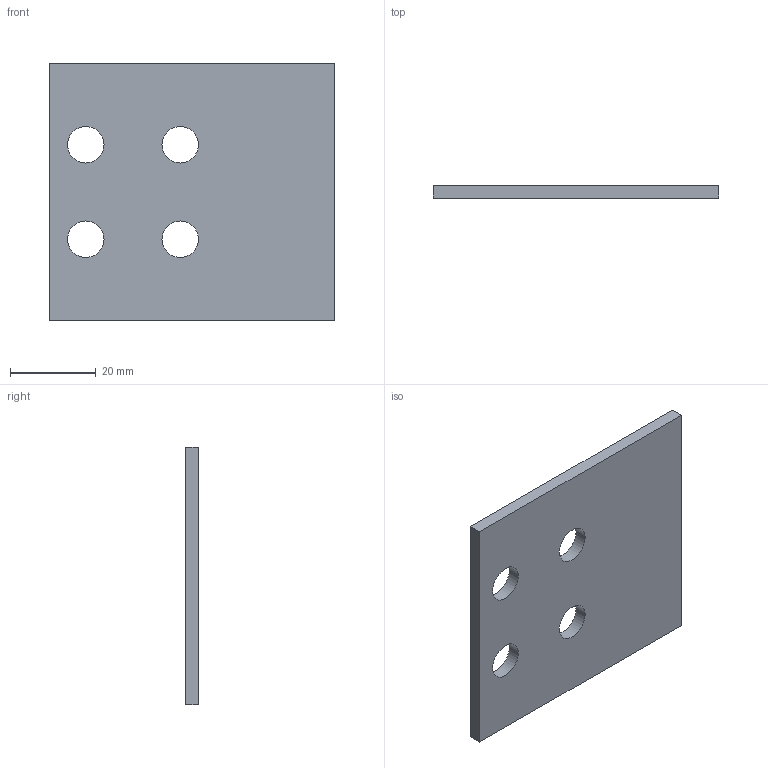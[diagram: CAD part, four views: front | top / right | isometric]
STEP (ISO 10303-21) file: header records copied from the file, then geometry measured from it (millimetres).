
FILE_DESCRIPTION( ( '' ), '1' );
FILE_NAME( 'E:/04 嬴檜蠱滌/0404 ZIMMER/040414 ZIMMER CAD download/Adapt plate/PLK for LKP, LKPS/PLK30-3.stp', '2020-04-16T10:19:48', ( '' ), ( '' ), ' ', ' ', ' ' );
FILE_SCHEMA( ( 'automotive_design' ) );
Length unit declared in the file: millimetre
Products named in the file (1): 1
Bounding box: 66.5 x 3 x 60 mm (x, y, z)
Volume: 11289.1 mm3; surface area: 8605.5 mm2
Topology: 1 solids, 1 shells, 14 faces, 36 edges, 24 vertices
Faces by surface type: cylinder 8, plane 6
Entity records: 888 total; most frequent: DIRECTION 82, STYLED_ITEM 75, PRESENTATION_STYLE_ASSIGNMENT 75, CARTESIAN_POINT 75, COLOUR_RGB 75, ORIENTED_EDGE 72, EDGE_CURVE 36, CURVE_STYLE 36
